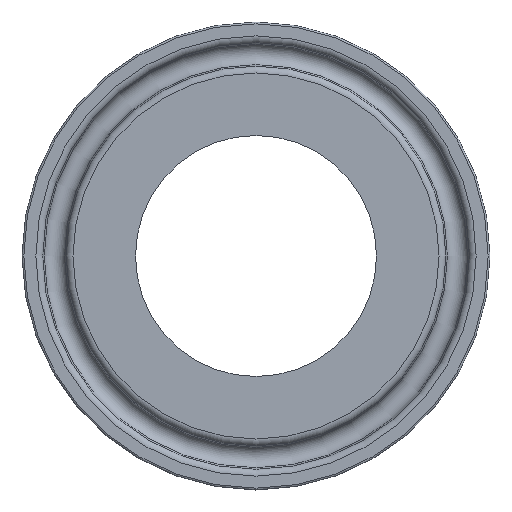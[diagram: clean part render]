
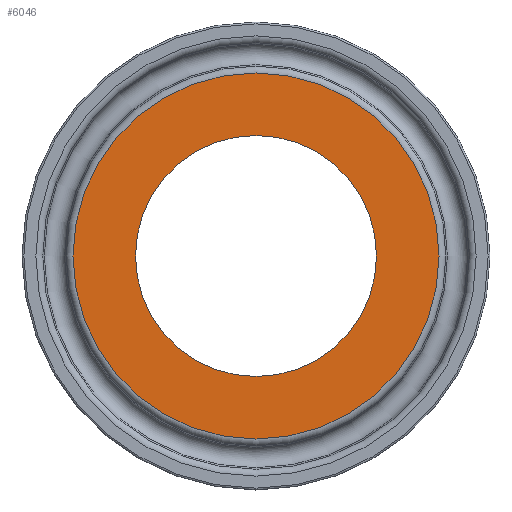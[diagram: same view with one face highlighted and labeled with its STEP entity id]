
A CAD part, left-side view. The second image highlights one B-rep face of the part: STEP entity #6046.
In plain terms, the highlighted planar face has unit normal (-1, 0, 0).
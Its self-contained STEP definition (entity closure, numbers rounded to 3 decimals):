
#677=PLANE('',#6378);
#780=CIRCLE('',#6300,19.747);
#844=CIRCLE('',#6377,13.);
#1141=ORIENTED_EDGE('',*,*,#2232,.T.);
#1142=ORIENTED_EDGE('',*,*,#2425,.T.);
#2232=EDGE_CURVE('',#2881,#2881,#780,.T.);
#2425=EDGE_CURVE('',#3074,#3074,#844,.T.);
#2881=VERTEX_POINT('',#7532);
#3074=VERTEX_POINT('',#8283);
#3606=EDGE_LOOP('',(#1141));
#3607=EDGE_LOOP('',(#1142));
#3916=FACE_BOUND('',#3606,.T.);
#3917=FACE_BOUND('',#3607,.T.);
#6046=ADVANCED_FACE('',(#3916,#3917),#677,.F.);
#6300=AXIS2_PLACEMENT_3D('',#7531,#6579,#6580);
#6377=AXIS2_PLACEMENT_3D('',#8282,#6777,#6778);
#6378=AXIS2_PLACEMENT_3D('',#8284,#6779,#6780);
#6579=DIRECTION('',(-1.,0.,0.));
#6580=DIRECTION('',(0.,1.,0.));
#6777=DIRECTION('',(1.,0.,0.));
#6778=DIRECTION('',(0.,-1.,0.));
#6779=DIRECTION('',(1.,0.,0.));
#6780=DIRECTION('',(0.,-1.,0.));
#7531=CARTESIAN_POINT('',(0.,0.,0.));
#7532=CARTESIAN_POINT('',(0.,19.747,0.));
#8282=CARTESIAN_POINT('',(0.,0.,0.));
#8283=CARTESIAN_POINT('',(0.,-13.,0.));
#8284=CARTESIAN_POINT('',(0.,16.474,0.));
